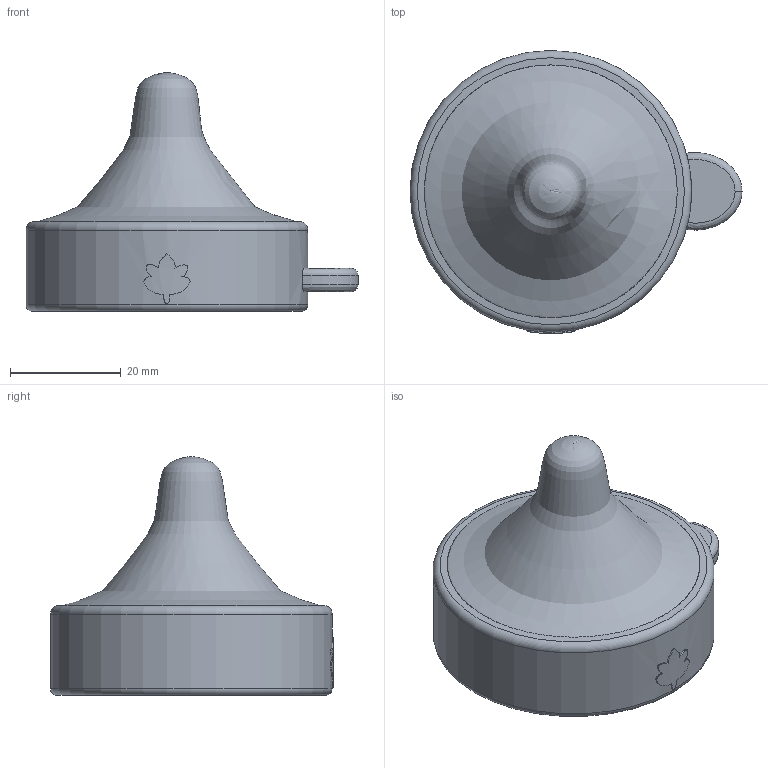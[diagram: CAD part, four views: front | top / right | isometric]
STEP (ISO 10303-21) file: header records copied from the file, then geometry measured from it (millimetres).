
FILE_DESCRIPTION(('Open CASCADE Model'),'2;1');
FILE_NAME('Open CASCADE Shape Model','2026-11-09T11:50:28',('Author'),( 'Open CASCADE'),'Open CASCADE STEP processor 7.8','Open CASCADE 7.8' ,'Unknown');
FILE_SCHEMA(('AUTOMOTIVE_DESIGN { 1 0 10303 214 1 1 1 1 }'));
Length unit declared in the file: millimetre
Products named in the file (1): Open CASCADE STEP translator 7.8 1
Bounding box: 59.91 x 51.06 x 43.05 mm (x, y, z)
Volume: 16430.1 mm3; surface area: 10290.9 mm2
Topology: 1 solids, 1 shells, 34 faces, 84 edges, 54 vertices
Faces by surface type: extrusion 14, torus 6, plane 5, bspline 4, cylinder 3, revolution 2
Full cylindrical faces by diameter (mm): 43.1 x1, 50.8 x1
Entity records: 5666 total; most frequent: CARTESIAN_POINT 4214, DIRECTION 190, ORIENTED_EDGE 164, PCURVE 164, DEFINITIONAL_REPRESENTATION 164, B_SPLINE_CURVE_WITH_KNOTS 125, VECTOR 108, LINE 94
